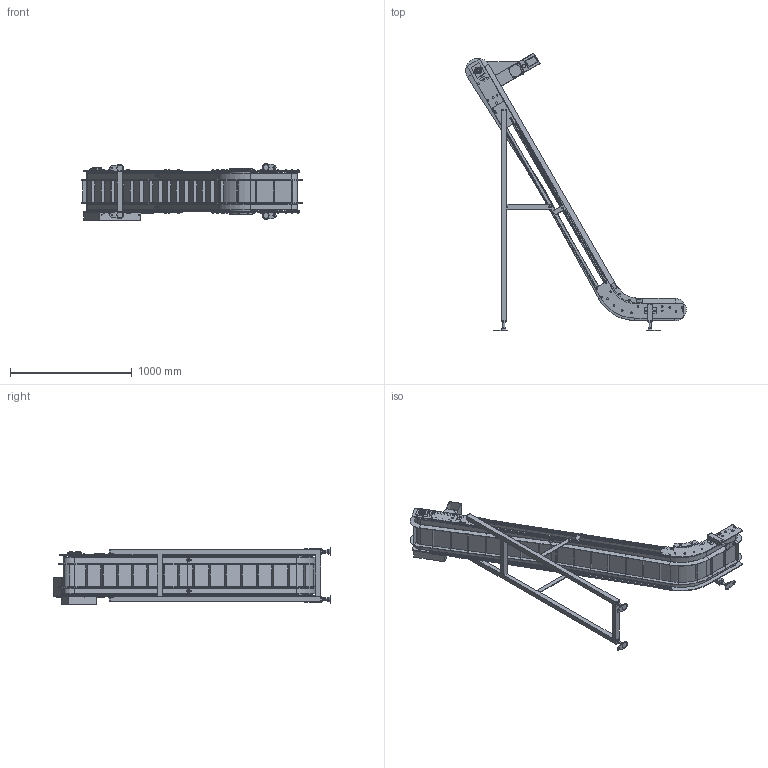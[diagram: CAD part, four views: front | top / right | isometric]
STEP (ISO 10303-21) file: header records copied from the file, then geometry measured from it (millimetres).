
FILE_DESCRIPTION( (''), '2;1');
FILE_NAME ('SMMX2-B-309-300-200-60°-K-180-O.stp','2025-02-17T14:56:11',(''),(''),'spGate 20.6.2 (****-****-****-****)','','');
FILE_SCHEMA (('AUTOMOTIVE_DESIGN'));
Length unit declared in the file: millimetre
Products named in the file (59): NewModel; TEMP_X_T-prt0; TEMP_X_T-prt1; TEMP_X_T-prt2; TEMP_X_T-prt3; TEMP_X_T-prt4; TEMP_X_T-prt5; TEMP_X_T-prt6; TEMP_X_T-prt7; TEMP_X_T-prt8; TEMP_X_T-prt9; TEMP_X_T-prt10; TEMP_X_T-prt11; TEMP_X_T-prt12; TEMP_X_T-prt13; TEMP_X_T-prt14; TEMP_X_T-prt15; TEMP_X_T-prt16; TEMP_X_T-prt17; TEMP_X_T-prt18; TEMP_X_T-prt19; TEMP_X_T-prt20; TEMP_X_T-prt21; TEMP_X_T-prt22; TEMP_X_T-prt23; TEMP_X_T-prt24; TEMP_X_T-prt25; TEMP_X_T-prt26; TEMP_X_T-prt27; TEMP_X_T-prt28; TEMP_X_T-prt29; TEMP_X_T-prt30; TEMP_X_T-prt31; TEMP_X_T-prt32; TEMP_X_T-prt33; TEMP_X_T-prt34; TEMP_X_T-prt35; TEMP_X_T-prt36; TEMP_X_T-prt37; TEMP_X_T-prt38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
Assembly tree (58 placements, depth 2):
  NewModel
    TEMP_X_T-prt0
    TEMP_X_T-prt1
    TEMP_X_T-prt2
    TEMP_X_T-prt3
    TEMP_X_T-prt4
    TEMP_X_T-prt5
    TEMP_X_T-prt6
    TEMP_X_T-prt7
    TEMP_X_T-prt8
    TEMP_X_T-prt9
    TEMP_X_T-prt10
    TEMP_X_T-prt11
    TEMP_X_T-prt12
    TEMP_X_T-prt13
    TEMP_X_T-prt14
    TEMP_X_T-prt15
    TEMP_X_T-prt16
    TEMP_X_T-prt17
    TEMP_X_T-prt18
    TEMP_X_T-prt19
    TEMP_X_T-prt20
    TEMP_X_T-prt21
    TEMP_X_T-prt22
    TEMP_X_T-prt23
    TEMP_X_T-prt24
    TEMP_X_T-prt25
    TEMP_X_T-prt26
    TEMP_X_T-prt27
    TEMP_X_T-prt28
    TEMP_X_T-prt29
    TEMP_X_T-prt30
    TEMP_X_T-prt31
    TEMP_X_T-prt32
    TEMP_X_T-prt33
    TEMP_X_T-prt34
    TEMP_X_T-prt35
    TEMP_X_T-prt36
    TEMP_X_T-prt37
    TEMP_X_T-prt38
    TEMP_X_T-prt39
    TEMP_X_T-prt40
    TEMP_X_T-prt41
    TEMP_X_T-prt42
    TEMP_X_T-prt43
    TEMP_X_T-prt44
    TEMP_X_T-prt45
    TEMP_X_T-prt46
    TEMP_X_T-prt47
    TEMP_X_T-prt48
    TEMP_X_T-prt49
    TEMP_X_T-prt50
    TEMP_X_T-prt51
    TEMP_X_T-prt52
    TEMP_X_T-prt53
    TEMP_X_T-prt54
    TEMP_X_T-prt55
    TEMP_X_T-prt56
    TEMP_X_T-prt57
Bounding box: 1810.96 x 2281.35 x 464.5 mm (x, y, z)
Volume: 31706379.8 mm3; surface area: 10217415.4 mm2
Topology: 58 solids, 58 shells, 2728 faces, 6519 edges, 4194 vertices
Faces by surface type: plane 1951, cylinder 587, bspline 190
Entity records: 135892 total; most frequent: CARTESIAN_POINT 17888, ORIENTED_EDGE 13018, DIRECTION 12608, COLOUR_RGB 9295, PRESENTATION_STYLE_ASSIGNMENT 9295, STYLED_ITEM 9295, EDGE_CURVE 6509, DRAUGHTING_PRE_DEFINED_CURVE_FONT 6509
